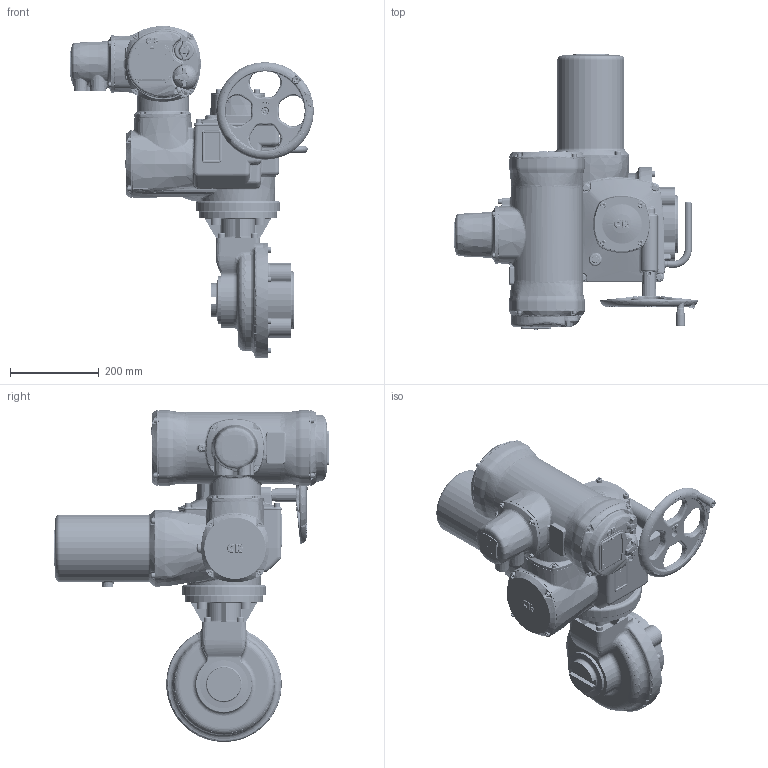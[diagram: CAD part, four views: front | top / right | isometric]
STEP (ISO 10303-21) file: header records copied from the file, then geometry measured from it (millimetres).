
FILE_DESCRIPTION(/* description */ ('Unknown','CAx-IF Rec.Pracs.---Representation and Presentation of Product Manufacturing Information (PMI)---4.0---2014-10-13','CAx-IF Rec.Pracs.---3D Tessellated Geometry---0.4---2014-09-14','2;1'),/* implementation_level */ '2;1');
FILE_NAME(/* name */ 'A6B7N0BS00X-1',/* time_stamp */ '2017-07-13T16:22:59+06:00',/* author */ ('Unknown'),/* organization */ ('Unknown'),/* preprocessor_version */ 'ST-DEVELOPER v16.7',/* originating_system */ 'DEX',/* authorisation */ $);
FILE_SCHEMA (('AP242_MANAGED_MODEL_BASED_3D_ENGINEERING_MIM_LF { 1 0 10303 442 20130219 1 4 }'));
Length unit declared in the file: millimetre
Products named in the file (3): A6B7N0BS00X-1; CK250&500 F14 NON THRUST BASE - C & SM; PUBIB7-F14-F16
Assembly tree (2 placements, depth 2):
  A6B7N0BS00X-1
    CK250&500 F14 NON THRUST BASE - C & SM
    PUBIB7-F14-F16
Bounding box: 548.57 x 621.15 x 747.45 mm (x, y, z)
Volume: 34216169.1 mm3; surface area: 1352854.9 mm2
Topology: 5 solids, 93 shells, 13613 faces, 33240 edges, 19951 vertices
Faces by surface type: plane 4866, bspline 3407, cylinder 3320, torus 979, cone 695, sphere 346
Full cylindrical faces by diameter (mm): 0.6 x2, 1.152 x1, 3 x2, 3.2 x1, 4 x2, 4.2 x6, 4.4 x1, 4.5 x5, 4.917 x29, 5.5 x4, 6 x12, 6.45 x1, 6.47 x1, 6.5 x8, 6.6 x4, 6.647 x12, 6.8 x8, 7 x5, 8 x15, 8.2 x1, 8.25 x1, 8.5 x10, 10 x33, 10.22 x4, 10.5 x8, 11 x1, 11.92 x1, 12 x1, 13 x18, 13.25 x4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
Entity records: 599249 total; most frequent: CARTESIAN_POINT 219384, ORIENTED_EDGE 63512, DIRECTION 49666, EDGE_CURVE 31756, VERTEX_POINT 19642, AXIS2_PLACEMENT_3D 17879, FACE_BOUND 15072, EDGE_LOOP 14990
